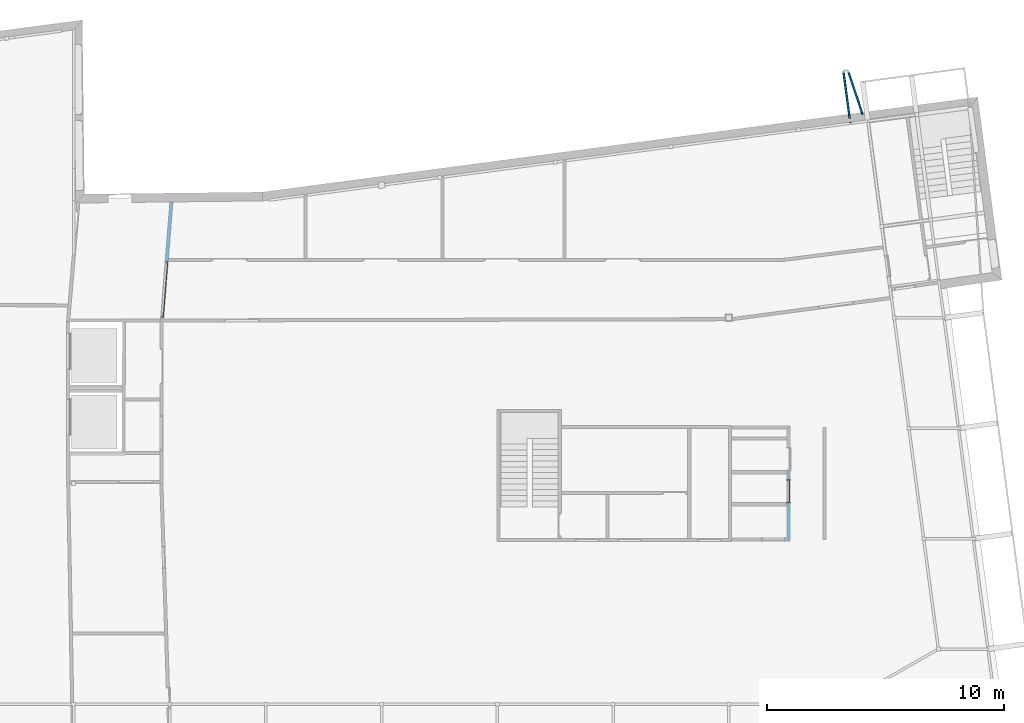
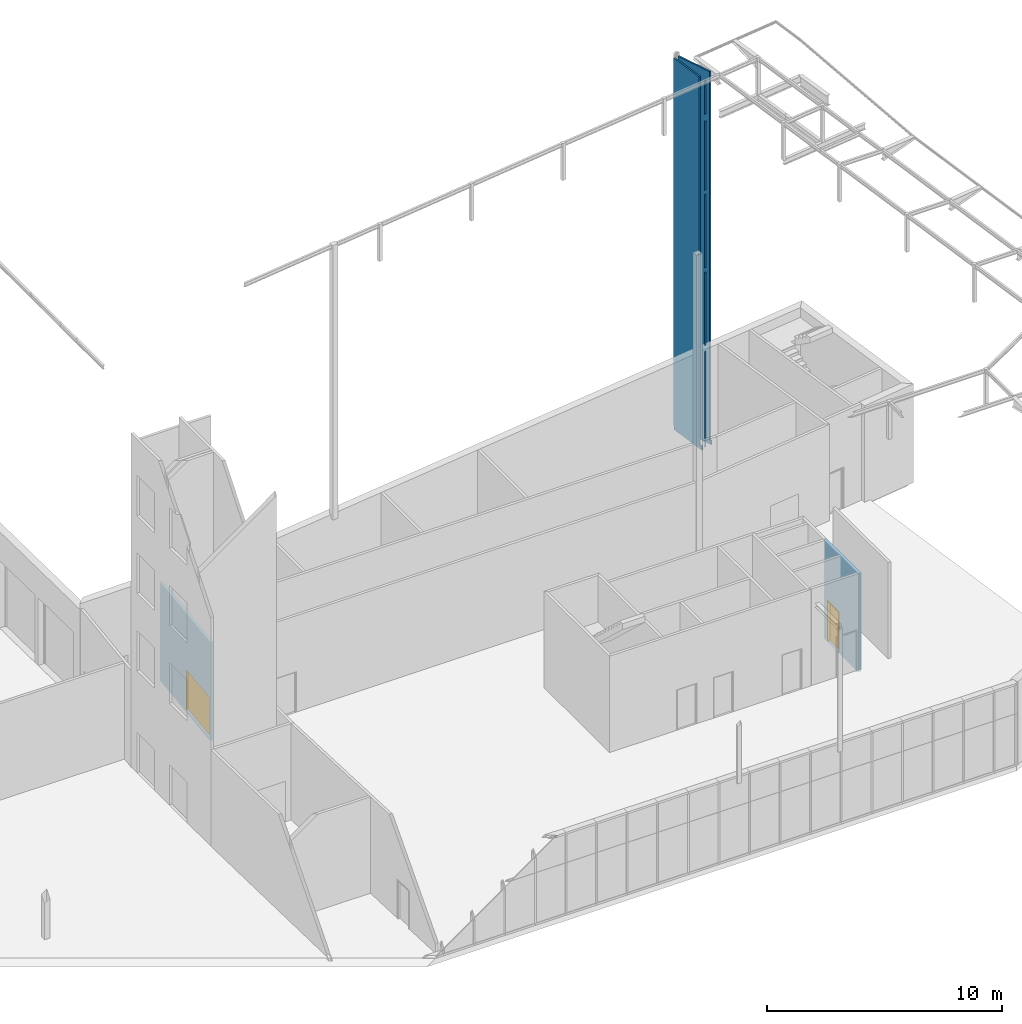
# One storey, part 33 of 40: 2 doors, 2 walls, 2 openings, plus 2 elements that do not belong to this part.
"""IFC2X3 building model written with IfcOpenShell, lengths in metres."""

from ifc_helpers import new_model, entity, si_unit, converted_unit, money_unit, direction, frame, origin_with_axes, origin_2d_with_axis, place, context, subcontext, project, spatial, polyline, rectangle, outline, extrude, boolean, faceted_brep, source, transform, mapped, material, material_list, layer, layer_set, layer_usage, type_object, element, fill, save


model = new_model("IFC2X3")

# Units and contexts
model_context = context("Model", 3, precision=1e-05, world=origin_with_axes(), true_north=direction((0.0, 1.0)))
body_context = subcontext(model_context, "Body", "Model", "MODEL_VIEW")
ifc_project = project(units=[si_unit("LENGTHUNIT", "METRE"), si_unit("AREAUNIT", "SQUARE_METRE"), si_unit("VOLUMEUNIT", "CUBIC_METRE"), converted_unit("PLANEANGLEUNIT", "DEGREE", entity("IfcPlaneAngleMeasure", 0.0174532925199), si_unit("PLANEANGLEUNIT", "RADIAN"), dimensions=[0, 0, 0, 0, 0, 0, 0]), si_unit("SOLIDANGLEUNIT", "STERADIAN"), money_unit("EUR"), converted_unit("TIMEUNIT", "Year", entity("IfcTimeMeasure", 31556926.0), si_unit("TIMEUNIT", "SECOND"), dimensions=[0, 0, 0, 0, 0, 0, 0]), si_unit("MASSUNIT", "GRAM"), si_unit("THERMODYNAMICTEMPERATUREUNIT", "DEGREE_CELSIUS"), si_unit("LUMINOUSINTENSITYUNIT", "LUMEN")], contexts=[model_context])

# Site, building, storey
site_placement = place(None, origin_with_axes())
site = spatial("IfcSite", under=ifc_project, at=site_placement, Name="Undefined", CompositionType="ELEMENT")
building_placement = place(site_placement, origin_with_axes())
building = spatial("IfcBuilding", under=site, at=building_placement, Name="Undefined", CompositionType="ELEMENT")
storey_placement = place(building_placement, origin_with_axes())
storey = spatial("IfcBuildingStorey", under=building, at=storey_placement, Name="Rez de chauss\x8ee", CompositionType="ELEMENT", Elevation=0.0)

# Wall, opening, door
ifc_material_1 = material(Name="Finition int - Enduit pl\x89tre")
ifc_layer_1 = layer(ifc_material_1, 0.015, ventilated="UNKNOWN")
ifc_material_2 = material(Name="Struct. - Parpaing b\x8eton")
ifc_layer_2 = layer(ifc_material_2, 0.1, ventilated="UNKNOWN")
ifc_layer_3 = layer(ifc_material_1, 0.015, ventilated="UNKNOWN")
ifc_layer_set_1 = layer_set([ifc_layer_1, ifc_layer_2, ifc_layer_3], Name="0.0-Cloison: parpaing + pl\x89tre 2 faces copie")
ifc_layer_usage_1 = layer_usage(ifc_layer_set_1, "AXIS2", "POSITIVE", -0.05)
wall_type_1 = type_object("IfcWallType", Name="0.0-Cloison: parpaing + pl\x89tre 2 faces copie 130", PredefinedType="NOTDEFINED")
wall_1_placement = place(storey_placement, frame((59.375, 9.195, 0.0), z_axis=(0.0, 0.0, 1.0), x_axis=(0.0, 1.0, 0.0)))
wall_1 = element("IfcWallStandardCase", 1, at=wall_1_placement, inside=storey, type_object=wall_type_1, material=ifc_layer_usage_1, Name="VOILE_10CM", ObjectType="5850*100", context=body_context, shape_type="SweptSolid", body=[
    extrude(outline(polyline([(0.0, -0.05), (2.91999999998, -0.05), (2.91999999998, 0.08), (0.0, 0.08), (0.0, -0.05)])), origin_with_axes(), (0.0, 0.0, 1.0), 5.11885554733),
])
opening_1_placement = place(wall_1_placement, frame((2.10446837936, 0.0, 0.06), z_axis=(0.0, 0.0, 1.0), x_axis=(1.0, 0.0, 0.0)))
opening_1 = element("IfcOpeningElement", 2, at=opening_1_placement, cuts=wall_1, Name="DOOR_1000", context=body_context, shape_type="SweptSolid", body=[
    extrude(rectangle(XDim=1.0, YDim=2.1, at=origin_2d_with_axis()), frame((0.0, 0.13, 1.05), z_axis=(0.0, -1.0, 0.0), x_axis=(-1.0, 0.0, 0.0)), (0.0, 0.0, 1.0), 0.39),
    extrude(rectangle(XDim=1.02, YDim=2.11, at=origin_2d_with_axis()), frame((0.0, 0.21, 1.055), z_axis=(0.0, -1.0, 0.0), x_axis=(-1.0, 0.0, 0.0)), (0.0, 0.0, 1.0), 0.13),
    extrude(rectangle(XDim=1.02, YDim=2.11, at=origin_2d_with_axis()), frame((0.0, -0.18, 1.055), z_axis=(0.0, 1.0, 0.0), x_axis=(-1.0, 0.0, 0.0)), (0.0, 0.0, 1.0), 0.13),
])
ifc_material_3 = material(Name="Empty Fill")
ifc_material_4 = material(Name="Air Space")
ifc_material_5 = material(Name="Foreground")
ifc_material_6 = material(Name="Background Fill-International")
ifc_material_7 = material(Name="Rigid Insulation")
ifc_material_8 = material(Name="Background")
ifc_material_list_1 = material_list([ifc_material_3, ifc_material_4, ifc_material_5, ifc_material_3, ifc_material_6, ifc_material_3, ifc_material_3, ifc_material_7, ifc_material_6, ifc_material_3, ifc_material_3, ifc_material_3, ifc_material_4, ifc_material_8, ifc_material_8, ifc_material_6])
door_style_1 = type_object("IfcDoorStyle", Name="Porte 18", ConstructionType="NOTDEFINED", OperationType="SINGLE_SWING_RIGHT", ParameterTakesPrecedence=False, Sizeable=False)
shared_shape_1 = source(origin_with_axes(), body_context, "Body", "Brep", [
    faceted_brep([(-0.51, -0.149, 0.0), (-0.51, -0.13, 0.0), (-0.46, -0.13, 0.0), (-0.46, -0.149, 0.0), (-0.51, -0.149, 2.11), (-0.51, -0.13, 2.11), (-0.46, -0.13, 2.06), (-0.46, -0.149, 2.06)], [[[0, 1, 2, 3]], [[4, 5, 1, 0]], [[1, 5, 6, 2]], [[3, 2, 6, 7]], [[0, 3, 7, 4]], [[7, 6, 5, 4]]]),
    faceted_brep([(0.51, -0.149, 2.11), (0.51, -0.13, 2.11), (0.46, -0.13, 2.06), (0.46, -0.149, 2.06), (0.51, -0.149, 0.0), (0.51, -0.13, 0.0), (0.46, -0.13, 0.0), (0.46, -0.149, 0.0)], [[[0, 1, 2, 3]], [[4, 5, 1, 0]], [[1, 5, 6, 2]], [[3, 2, 6, 7]], [[0, 3, 7, 4]], [[7, 6, 5, 4]]]),
    faceted_brep([(-0.51, -0.149, 2.11), (-0.51, -0.13, 2.11), (-0.46, -0.13, 2.06), (-0.46, -0.149, 2.06), (0.51, -0.149, 2.11), (0.51, -0.13, 2.11), (0.46, -0.13, 2.06), (0.46, -0.149, 2.06)], [[[0, 1, 2, 3]], [[4, 5, 1, 0]], [[1, 5, 6, 2]], [[3, 2, 6, 7]], [[0, 3, 7, 4]], [[7, 6, 5, 4]]]),
    faceted_brep([(-0.51, 0.019, 0.0), (-0.46, 0.019, 0.0), (-0.46, 0.0, 0.0), (-0.51, 0.0, 0.0), (-0.51, 0.019, 2.11), (-0.46, 0.019, 2.06), (-0.46, 0.0, 2.06), (-0.51, 0.0, 2.11)], [[[0, 1, 2, 3]], [[0, 4, 5, 1]], [[1, 5, 6, 2]], [[3, 2, 6, 7]], [[4, 0, 3, 7]], [[5, 4, 7, 6]]]),
    faceted_brep([(0.51, 0.019, 2.11), (0.46, 0.019, 2.06), (0.46, 0.0, 2.06), (0.51, 0.0, 2.11), (0.51, 0.019, 0.0), (0.46, 0.019, 0.0), (0.46, 0.0, 0.0), (0.51, 0.0, 0.0)], [[[0, 1, 2, 3]], [[0, 4, 5, 1]], [[1, 5, 6, 2]], [[3, 2, 6, 7]], [[4, 0, 3, 7]], [[5, 4, 7, 6]]]),
    faceted_brep([(-0.51, 0.019, 2.11), (-0.46, 0.019, 2.06), (-0.46, 0.0, 2.06), (-0.51, 0.0, 2.11), (0.51, 0.019, 2.11), (0.46, 0.019, 2.06), (0.46, 0.0, 2.06), (0.51, 0.0, 2.11)], [[[0, 1, 2, 3]], [[0, 4, 5, 1]], [[1, 5, 6, 2]], [[3, 2, 6, 7]], [[4, 0, 3, 7]], [[5, 4, 7, 6]]]),
    faceted_brep([(-0.46, -0.04, 0.0), (-0.46, -0.04, 2.06), (-0.46, -0.13, 2.06), (-0.46, -0.13, 0.0), (-0.472, -0.04, 2.06), (-0.472, -0.04, 0.0), (-0.472, 0.0, 2.06), (-0.5, 0.0, 2.06), (-0.5, -0.13, 2.06), (-0.5, -0.13, 0.0), (-0.5, 0.0, 0.0), (-0.472, 0.0, 0.0)], [[[0, 1, 2, 3]], [[4, 1, 0, 5]], [[4, 6, 7, 8, 2, 1]], [[8, 9, 3, 2]], [[5, 0, 3, 9, 10, 11]], [[6, 4, 5, 11]], [[6, 11, 10, 7]], [[8, 7, 10, 9]]]),
    faceted_brep([(0.472, -0.04, 2.06), (0.46, -0.04, 2.06), (0.46, -0.13, 2.06), (0.5, -0.13, 2.06), (0.5, 0.0, 2.06), (0.472, 0.0, 2.06), (0.472, -0.04, 0.0), (0.46, -0.04, 0.0), (0.46, -0.13, 0.0), (0.5, -0.13, 0.0), (0.5, 0.0, 0.0), (0.472, 0.0, 0.0)], [[[0, 1, 2, 3, 4, 5]], [[1, 0, 6, 7]], [[1, 7, 8, 2]], [[8, 9, 3, 2]], [[9, 10, 4, 3]], [[11, 5, 4, 10]], [[0, 5, 11, 6]], [[6, 11, 10, 9, 8, 7]]]),
    faceted_brep([(-0.472, 0.0, 2.072), (-0.472, 0.0, 2.06), (-0.5, 0.0, 2.06), (-0.5, 0.0, 2.1), (0.5, 0.0, 2.1), (0.5, 0.0, 2.06), (0.472, 0.0, 2.06), (0.472, 0.0, 2.072), (-0.472, -0.04, 2.072), (-0.472, -0.04, 2.06), (-0.46, -0.04, 2.06), (-0.46, -0.13, 2.06), (-0.5, -0.13, 2.06), (-0.5, -0.13, 2.1), (0.5, -0.13, 2.1), (0.5, -0.13, 2.06), (0.472, -0.04, 2.06), (0.46, -0.13, 2.06), (0.46, -0.04, 2.06), (0.472, -0.04, 2.072)], [[[0, 1, 2, 3, 4, 5, 6, 7]], [[1, 0, 8, 9]], [[9, 10, 11, 12, 2, 1]], [[13, 3, 2, 12]], [[14, 4, 3, 13]], [[15, 5, 4, 14]], [[16, 6, 5, 15, 17, 18]], [[7, 6, 16, 19]], [[0, 7, 19, 8]], [[16, 18, 10, 9, 8, 19]], [[10, 18, 17, 11]], [[14, 13, 12, 11, 17, 15]]]),
    faceted_brep([(0.472, 0.0, 0.0), (0.472, -0.04, 0.0), (-0.472, -0.04, 0.0), (-0.472, 0.0, 0.0), (0.472, 0.0, 2.072), (0.472, -0.04, 2.072), (-0.472, -0.04, 2.072), (-0.472, 0.0, 2.072)], [[[0, 1, 2, 3]], [[4, 5, 1, 0]], [[1, 5, 6, 2]], [[3, 2, 6, 7]], [[0, 3, 7, 4]], [[7, 6, 5, 4]]]),
])
door_1_placement = place(opening_1_placement, frame((0.5, 0.0, 0.0), z_axis=(0.0, 0.0, 1.0), x_axis=(-1.0, 0.0, 0.0)))
door_1 = element("IfcDoor", 3, at=door_1_placement, inside=storey, type_object=door_style_1, material=ifc_material_list_1, Name="DOOR_1000", ObjectType="DOOR", OverallHeight=2.1, OverallWidth=1.0, context=body_context, shape_type="MappedRepresentation", body=[
    mapped(shared_shape_1, transform((0.5, 0.05, 0.0))),
])
fill(opening_1, door_1)

ifc_layer_usage_2 = layer_usage(ifc_layer_set_1, "AXIS2", "NEGATIVE", 0.0)
wall_2_placement = place(storey_placement, frame((32.9086883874, 18.4900686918, 0.0), z_axis=(0.0, 0.0, 1.0), x_axis=(0.0792403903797, 0.996855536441, 0.0)))
wall_2 = element("IfcWallStandardCase", 4, at=wall_2_placement, inside=storey, type_object=wall_type_1, material=ifc_layer_usage_2, Name="Wall_Int_SEC_01", context=body_context, shape_type="SweptSolid", body=[
    extrude(outline(polyline([(0.0755387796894, -0.13), (5.01947418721, -0.13), (5.00764082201, 0.0), (0.065205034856, 0.0), (0.0755387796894, -0.13)])), origin_with_axes(), (0.0, 0.0, 1.0), 5.12),
])
opening_2_placement = place(wall_2_placement, frame((1.32197391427, 0.0, 0.12), z_axis=(0.0, 0.0, 1.0), x_axis=(1.0, 0.0, 0.0)))
opening_2 = element("IfcOpeningElement", 5, at=opening_2_placement, cuts=wall_2, Name="DOOR", context=body_context, shape_type="SweptSolid", body=[
    extrude(rectangle(XDim=2.35, YDim=2.1, at=origin_2d_with_axis()), frame((0.0, -0.26, 1.05), z_axis=(0.0, 1.0, 0.0), x_axis=(1.0, 0.0, 0.0)), (0.0, 0.0, 1.0), 0.13),
    extrude(rectangle(XDim=2.35, YDim=2.1, at=origin_2d_with_axis()), frame((0.0, 0.0, 1.05), z_axis=(0.0, -1.0, 0.0), x_axis=(1.0, 0.0, 0.0)), (0.0, 0.0, 1.0), 0.13),
])
ifc_material_list_2 = material_list([ifc_material_6, ifc_material_4])
door_style_2 = type_object("IfcDoorStyle", Name="IFC Porte double - Simple battant", ConstructionType="ALUMINIUM", OperationType="DOUBLE_DOOR_SINGLE_SWING", ParameterTakesPrecedence=True, Sizeable=False)
shared_shape_2 = source(origin_with_axes(), body_context, "Body", "Brep", [
    faceted_brep([(1.175, 0.0, 0.0), (1.175, -0.1, 0.0), (1.125, -0.1, 0.0), (1.125, 0.0, 0.0), (1.175, 0.0, 2.1), (1.175, -0.1, 2.1), (-1.175, -0.1, 2.1), (-1.175, -0.1, 0.0), (-1.125, -0.1, 0.0), (-1.125, -0.1, 2.05), (1.125, -0.1, 2.05), (1.125, 0.0, 2.05), (-1.125, 0.0, 2.05), (-1.125, 0.0, 0.0), (-1.175, 0.0, 0.0), (-1.175, 0.0, 2.1)], [[[0, 1, 2, 3]], [[4, 5, 1, 0]], [[1, 5, 6, 7, 8, 9, 10, 2]], [[3, 2, 10, 11]], [[0, 3, 11, 12, 13, 14, 15, 4]], [[15, 6, 5, 4]], [[14, 7, 6, 15]], [[13, 8, 7, 14]], [[12, 9, 8, 13]], [[11, 10, 9, 12]]]),
    faceted_brep([(-1.125, 0.0, 0.0), (-1.125, -0.04, 0.0), (-1.125, -0.04, 2.05), (-1.125, 0.0, 2.05), (0.0, 0.0, 0.0), (0.0, -0.04, 0.0), (0.0, -0.04, 2.05), (0.0, 0.0, 2.05)], [[[0, 1, 2, 3]], [[4, 5, 1, 0]], [[1, 5, 6, 2]], [[3, 2, 6, 7]], [[0, 3, 7, 4]], [[7, 6, 5, 4]]]),
    faceted_brep([(1.125, 0.0, 0.0), (1.125, -0.04, 0.0), (0.0, -0.04, 0.0), (0.0, 0.0, 0.0), (1.125, 0.0, 2.05), (1.125, -0.04, 2.05), (0.0, -0.04, 2.05), (0.0, 0.0, 2.05)], [[[0, 1, 2, 3]], [[4, 5, 1, 0]], [[1, 5, 6, 2]], [[3, 2, 6, 7]], [[0, 3, 7, 4]], [[7, 6, 5, 4]]]),
])
door_2_placement = place(opening_2_placement, frame((1.175, 0.0, 0.0), z_axis=(0.0, 0.0, 1.0), x_axis=(-1.0, 0.0, 0.0)))
door_2 = element("IfcDoor", 6, at=door_2_placement, inside=storey, type_object=door_style_2, material=ifc_material_list_2, Name="DOOR", ObjectType="DOOR", OverallHeight=2.1, OverallWidth=2.35, context=body_context, shape_type="MappedRepresentation", body=[
    mapped(shared_shape_2, transform((1.175, 0.13, 0.0))),
])
fill(opening_2, door_2)

# Walls
ifc_material_9 = material(Name="% Ê50 1740021793")
ifc_layer_4 = layer(ifc_material_9, 0.075, ventilated="UNKNOWN")
ifc_layer_set_2 = layer_set([ifc_layer_4], Name="% Ê50 1740021793 0.075")
ifc_layer_usage_3 = layer_usage(ifc_layer_set_2, "AXIS2", "NEGATIVE", 0.0)
wall_type_2 = type_object("IfcWallType", Name="% Ê50 1740021793 75", PredefinedType="NOTDEFINED")
wall_3_placement = place(storey_placement, frame((61.9261478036, 28.9450315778, -0.195), z_axis=(0.0, 0.0, 1.0), x_axis=(0.317337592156, -0.948312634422, 0.0)))
element("IfcWallStandardCase", 7, at=wall_3_placement, inside=storey, type_object=wall_type_2, material=ifc_layer_usage_3, Name="WallEx04", ObjectType="WALL", context=body_context, shape_type="CSG", body=[
    boolean("DIFFERENCE", boolean("DIFFERENCE", extrude(outline(polyline([(-0.0233876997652, -0.075), (1.86085441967, -0.075), (1.86085441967, 0.0), (-0.0233876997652, 0.0), (-0.0233876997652, -0.075)])), origin_with_axes(), (0.0, 0.0, 1.0), 22.195), faceted_brep([(0.0, 0.0, 0.195), (0.0, 0.0, 0.0), (-0.0233876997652, 0.0, 0.0), (-0.0233876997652, 0.0, 0.195), (0.0, -0.075, 0.195), (0.0, -0.075, 0.0), (-0.0233876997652, -0.075, 0.0), (-0.0233876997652, -0.075, 0.195)], [[[0, 1, 2, 3]], [[1, 0, 4, 5]], [[1, 5, 6, 2]], [[7, 3, 2, 6]], [[0, 3, 7, 4]], [[4, 7, 6, 5]]])), faceted_brep([(1.86085441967, -0.075, 0.195), (1.86085441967, 0.0, 0.195), (1.86085441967, 0.0, 22.195), (1.86085441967, -0.075, 22.195), (1.77881070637, 0.0, 0.195), (1.76432373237, -0.075, 0.195), (1.77878657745, 0.0, 19.309770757), (-0.0233876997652, 0.0, 19.2799507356), (-0.0233876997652, 0.0, 22.195), (1.77881070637, 0.0, 5.315), (1.77878657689, 0.0, 5.31499999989), (1.77878657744, 0.0, 9.5), (1.77805056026, 0.0, 9.5), (1.77805056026, 0.0, 13.645), (1.77878657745, 0.0, 13.645), (-0.0233876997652, -0.075, 22.195), (-0.0233876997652, -0.075, 19.2735075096), (1.76429967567, -0.075, 19.3030878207), (1.76429967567, -0.075, 13.645), (1.76355214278, -0.075, 13.645), (1.76355214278, -0.075, 9.5), (1.76429967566, -0.075, 9.5), (1.7642996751, -0.075, 5.31499999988), (1.76432373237, -0.075, 5.315)], [[[0, 1, 2, 3]], [[4, 1, 0, 5]], [[6, 7, 8, 2, 1, 4, 9, 10, 11, 12, 13, 14]], [[15, 3, 2, 8]], [[5, 0, 3, 15, 16, 17, 18, 19, 20, 21, 22, 23]], [[9, 4, 5, 23]], [[7, 6, 17, 16]], [[7, 16, 15, 8]], [[10, 9, 23, 22]], [[11, 10, 22, 21]], [[12, 11, 21, 20]], [[13, 12, 20, 19]], [[14, 13, 19, 18]], [[6, 14, 18, 17]]])),
])
ifc_layer_usage_4 = layer_usage(ifc_layer_set_2, "AXIS2", "NEGATIVE", 0.0)
wall_4_placement = place(storey_placement, frame((61.9260728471, 26.8099124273, -0.195), z_axis=(0.0, 0.0, 1.0), x_axis=(-0.13225639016, 0.991215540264, 0.0)))
element("IfcWallStandardCase", 8, at=wall_4_placement, inside=storey, type_object=wall_type_2, material=ifc_layer_usage_4, Name="WallEx04", ObjectType="WALL", context=body_context, shape_type="CSG", body=[
    boolean("DIFFERENCE", extrude(outline(polyline([(0.0, -0.075), (2.24897000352, -0.075), (2.24897000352, 0.0), (0.0, 0.0), (0.0, -0.075)])), origin_with_axes(), (0.0, 0.0, 1.0), 22.195), faceted_brep([(0.0, 0.0, 19.2556258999), (0.0, -0.075, 19.2621875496), (0.0, -0.075, 22.195), (0.0, 0.0, 22.195), (0.0149600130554, -0.075, 19.2621875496), (0.0150000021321, 0.0, 19.2556258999), (0.0149600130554, -0.075, 19.1285), (0.0, -0.075, 19.1285), (0.0, -0.075, 19.12), (0.0149600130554, -0.075, 19.12), (0.0149600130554, -0.075, 17.52), (0.0, -0.075, 17.52), (0.0, -0.075, 17.155), (0.0149600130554, -0.075, 17.155), (0.0149600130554, -0.075, 13.585), (0.0, -0.075, 13.585), (0.0, -0.075, 13.345), (0.0157631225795, -0.075, 13.345), (0.0157631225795, -0.075, 9.62), (0.0149600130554, -0.075, 9.62), (0.0149600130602, -0.075, 9.56), (0.0, -0.075, 9.56), (0.0, -0.075, 9.32), (0.0149600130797, -0.075, 9.32), (0.0149600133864, -0.0750000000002, 5.535), (0.0, -0.075, 5.535), (0.0, -0.075, 5.215), (0.0149368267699, -0.075, 5.215), (0.0149368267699, -0.075, 0.255), (0.0, -0.075, 0.255), (0.0, -0.075, 0.0), (0.19494202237, -0.075, 0.0), (0.19494202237, -0.075, 0.195), (0.369936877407, -0.075, 0.195), (0.369936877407, -0.075, 5.315), (0.369960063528, -0.075, 9.5), (0.370763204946, -0.075, 9.5), (0.370763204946, -0.075, 13.645), (0.369960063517, -0.075, 13.645), (0.369960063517, -0.075, 19.2621875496), (2.21450349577, -0.075, 19.2621875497), (2.21450488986, -0.075, 19.2320729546), (2.21450488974, -0.074999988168, 0.195), (2.1163533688, -0.075, 0.195), (2.1163533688, -0.075, 0.0), (2.24897000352, -0.075, 0.0), (2.24897000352, -0.075, 22.195), (2.24897000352, 0.0, 22.195), (2.24897000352, 0.0, 0.0), (2.1163533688, 0.0, 0.0), (2.1163533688, 0.0, 0.195), (2.12389272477, 0.0, 0.195), (2.12389272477, 0.0, 19.2556258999), (0.370000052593, 0.0, 19.2556258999), (0.370000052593, 0.0, 13.645), (0.370814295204, 0.0, 13.645), (0.370814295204, 0.0, 9.5), (0.370000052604, 0.0, 9.5), (0.369976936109, 0.0, 5.315), (0.369976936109, 0.0, 0.195), (0.194982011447, 0.0, 0.195), (0.194982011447, 0.0, 0.0), (0.0, 0.0, 0.0), (0.0, 0.0, 0.255), (0.0149768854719, 0.0, 0.255), (0.0149768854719, 0.0, 5.215), (0.0, 0.0, 5.215), (0.0, 0.0, 5.535), (0.0150000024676, 0.0, 5.535), (0.0150000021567, 0.0, 9.32), (0.0, 0.0, 9.32), (0.0, 0.0, 9.56), (0.015000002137, 0.0, 9.56), (0.0150000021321, 0.0, 9.62), (0.0158142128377, 0.0, 9.62), (0.0158142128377, 0.0, 13.345), (0.0, 0.0, 13.345), (0.0, 0.0, 13.585), (0.0150000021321, 0.0, 13.585), (0.0150000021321, 0.0, 17.155), (0.0, 0.0, 17.155), (0.0, 0.0, 17.52), (0.0150000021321, 0.0, 17.52), (0.0150000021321, 0.0, 19.12), (0.0, 0.0, 19.12), (0.0, 0.0, 19.1285), (0.0150000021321, 0.0, 19.1285), (2.214520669, -0.0427913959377, 19.2593696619), (2.14638060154, -0.00341198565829, 19.25592441), (2.16980496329, -0.01130767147, 19.256615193), (2.1915018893, -0.0231507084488, 19.2576513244), (2.2108127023, -0.0385814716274, 19.2590013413), (2.21452206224, -0.0427929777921, 19.2292552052), (2.21452206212, -0.0427929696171, 0.195), (2.2108127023, -0.0385814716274, 0.195), (2.1915018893, -0.0231507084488, 0.195), (2.16980496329, -0.01130767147, 0.195), (2.14638060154, -0.00341198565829, 0.195)], [[[0, 1, 2, 3]], [[4, 1, 0, 5]], [[6, 7, 8, 9, 10, 11, 12, 13, 14, 15, 16, 17, 18, 19, 20, 21, 22, 23, 24, 25, 26, 27, 28, 29, 30, 31, 32, 33, 34, 35, 36, 37, 38, 39, 40, 41, 42, 43, 44, 45, 46, 2, 1, 4]], [[46, 47, 3, 2]], [[5, 0, 3, 47, 48, 49, 50, 51, 52, 53, 54, 55, 56, 57, 58, 59, 60, 61, 62, 63, 64, 65, 66, 67, 68, 69, 70, 71, 72, 73, 74, 75, 76, 77, 78, 79, 80, 81, 82, 83, 84, 85, 86]], [[6, 4, 5, 86]], [[85, 7, 6, 86]], [[7, 85, 84, 8]], [[84, 83, 9, 8]], [[83, 82, 10, 9]], [[10, 82, 81, 11]], [[80, 12, 11, 81]], [[80, 79, 13, 12]], [[79, 78, 14, 13]], [[14, 78, 77, 15]], [[77, 76, 16, 15]], [[75, 17, 16, 76]], [[74, 18, 17, 75]], [[73, 19, 18, 74]], [[72, 20, 19, 73]], [[72, 71, 21, 20]], [[22, 21, 71, 70]], [[22, 70, 69, 23]], [[23, 69, 68, 24]], [[25, 24, 68, 67]], [[67, 66, 26, 25]], [[27, 26, 66, 65]], [[28, 27, 65, 64]], [[63, 29, 28, 64]], [[29, 63, 62, 30]], [[62, 61, 31, 30]], [[60, 32, 31, 61]], [[59, 33, 32, 60]], [[58, 34, 33, 59]], [[35, 34, 58, 57]], [[56, 36, 35, 57]], [[55, 37, 36, 56]], [[54, 38, 37, 55]], [[53, 39, 38, 54]], [[87, 40, 39, 53, 52, 88, 89, 90, 91]], [[92, 41, 40, 87]], [[93, 42, 41, 92]], [[50, 43, 42, 93, 94, 95, 96, 97, 51]], [[49, 44, 43, 50]], [[45, 44, 49, 48]], [[48, 47, 46, 45]], [[88, 52, 51, 97]], [[89, 88, 97, 96]], [[90, 89, 96, 95]], [[91, 90, 95, 94]], [[87, 91, 94, 93, 92]]])),
])

save(model, "model.ifc")
